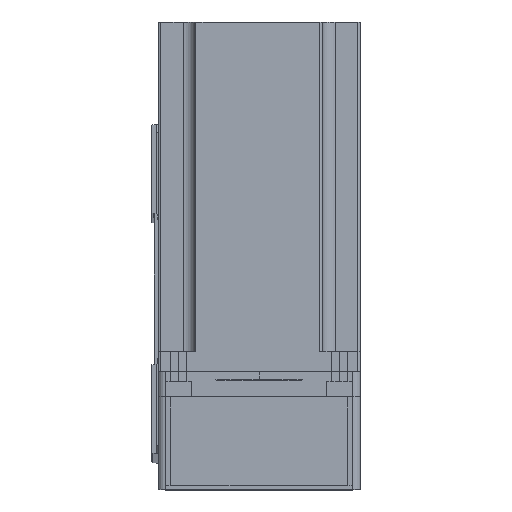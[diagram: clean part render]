
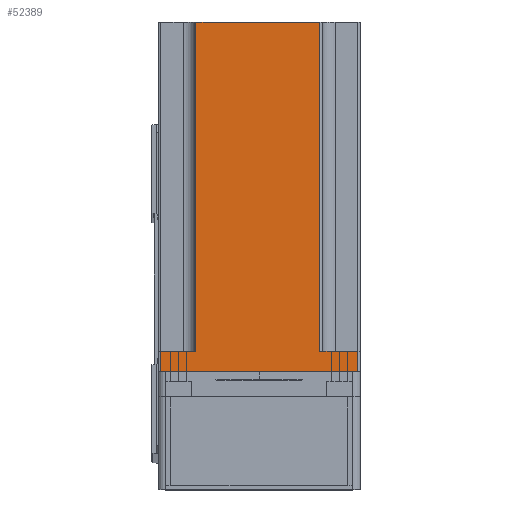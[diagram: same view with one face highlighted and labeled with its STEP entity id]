
A CAD part, top view. The second image highlights one B-rep face of the part: STEP entity #52389.
In plain terms, the highlighted planar face has unit normal (0, 0, 1) as drawn and (-1, 0, 0) by its records, which use the part's own axes.
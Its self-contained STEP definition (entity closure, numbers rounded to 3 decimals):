
#57 = LINE ( 'NONE', #50505, #11480 ) ;
#653 = DIRECTION ( 'NONE',  ( 0., -1., 0. ) ) ;
#1085 = ORIENTED_EDGE ( 'NONE', *, *, #23334, .T. ) ;
#1153 = CARTESIAN_POINT ( 'NONE',  ( -40., -40., 138.3 ) ) ;
#1919 = DIRECTION ( 'NONE',  ( 0., 0., 1. ) ) ;
#1994 = CARTESIAN_POINT ( 'NONE',  ( -40., 25., 8. ) ) ;
#2201 = VERTEX_POINT ( 'NONE', #14326 ) ;
#3221 = LINE ( 'NONE', #1153, #40673 ) ;
#4199 = LINE ( 'NONE', #54785, #54696 ) ;
#4256 = CARTESIAN_POINT ( 'NONE',  ( -40., -40., 138.3 ) ) ;
#8406 = CARTESIAN_POINT ( 'NONE',  ( -40., 39., 8. ) ) ;
#9092 = DIRECTION ( 'NONE',  ( 0., 0., -1. ) ) ;
#10614 = FACE_OUTER_BOUND ( 'NONE', #21081, .T. ) ;
#10742 = EDGE_CURVE ( 'NONE', #12630, #32214, #3221, .T. ) ;
#11480 = VECTOR ( 'NONE', #14108, 1000. ) ;
#12630 = VERTEX_POINT ( 'NONE', #31278 ) ;
#14108 = DIRECTION ( 'NONE',  ( 0., 0., -1. ) ) ;
#14326 = CARTESIAN_POINT ( 'NONE',  ( -40., 39., 0. ) ) ;
#15559 = VECTOR ( 'NONE', #17259, 1000. ) ;
#16110 = LINE ( 'NONE', #1994, #26029 ) ;
#17100 = CARTESIAN_POINT ( 'NONE',  ( -40., -39., 138.3 ) ) ;
#17259 = DIRECTION ( 'NONE',  ( 0., 0., 1. ) ) ;
#17350 = VECTOR ( 'NONE', #52584, 1000. ) ;
#18837 = VERTEX_POINT ( 'NONE', #39000 ) ;
#19520 = LINE ( 'NONE', #20780, #42591 ) ;
#20780 = CARTESIAN_POINT ( 'NONE',  ( -40., -40., 0. ) ) ;
#21068 = DIRECTION ( 'NONE',  ( 0., -1., 0. ) ) ;
#21081 = EDGE_LOOP ( 'NONE', ( #26376, #41757, #37972, #38243, #1085, #62653, #37791, #31861 ) ) ;
#23334 = EDGE_CURVE ( 'NONE', #18837, #28107, #56515, .T. ) ;
#24984 = LINE ( 'NONE', #43625, #49553 ) ;
#26029 = VECTOR ( 'NONE', #1919, 1000. ) ;
#26376 = ORIENTED_EDGE ( 'NONE', *, *, #38577, .F. ) ;
#28107 = VERTEX_POINT ( 'NONE', #8406 ) ;
#31278 = CARTESIAN_POINT ( 'NONE',  ( -40., 25., 138.3 ) ) ;
#31861 = ORIENTED_EDGE ( 'NONE', *, *, #44167, .T. ) ;
#32214 = VERTEX_POINT ( 'NONE', #49642 ) ;
#37791 = ORIENTED_EDGE ( 'NONE', *, *, #37813, .T. ) ;
#37813 = EDGE_CURVE ( 'NONE', #2201, #52732, #19520, .T. ) ;
#37972 = ORIENTED_EDGE ( 'NONE', *, *, #10742, .F. ) ;
#38243 = ORIENTED_EDGE ( 'NONE', *, *, #50688, .F. ) ;
#38403 = DIRECTION ( 'NONE',  ( 1., 0., 0. ) ) ;
#38577 = EDGE_CURVE ( 'NONE', #58494, #60012, #4199, .T. ) ;
#39000 = CARTESIAN_POINT ( 'NONE',  ( -40., 25., 8. ) ) ;
#40673 = VECTOR ( 'NONE', #653, 1000. ) ;
#41757 = ORIENTED_EDGE ( 'NONE', *, *, #57733, .T. ) ;
#42591 = VECTOR ( 'NONE', #21068, 1000. ) ;
#43625 = CARTESIAN_POINT ( 'NONE',  ( -40., -24., 138.3 ) ) ;
#44167 = EDGE_CURVE ( 'NONE', #52732, #60012, #54678, .T. ) ;
#44265 = EDGE_CURVE ( 'NONE', #28107, #2201, #57, .T. ) ;
#48516 = DIRECTION ( 'NONE',  ( 0., 0., 1. ) ) ;
#49401 = CARTESIAN_POINT ( 'NONE',  ( -40., 40., 8. ) ) ;
#49553 = VECTOR ( 'NONE', #48516, 1000. ) ;
#49642 = CARTESIAN_POINT ( 'NONE',  ( -40., -24., 138.3 ) ) ;
#50505 = CARTESIAN_POINT ( 'NONE',  ( -40., 39., 138.3 ) ) ;
#50688 = EDGE_CURVE ( 'NONE', #18837, #12630, #16110, .T. ) ;
#51211 = CARTESIAN_POINT ( 'NONE',  ( -40., -39., 0. ) ) ;
#52389 = ADVANCED_FACE ( 'NONE', ( #10614 ), #52771, .F. ) ;
#52584 = DIRECTION ( 'NONE',  ( 0., 1., 0. ) ) ;
#52732 = VERTEX_POINT ( 'NONE', #51211 ) ;
#52771 = PLANE ( 'NONE',  #55050 ) ;
#52787 = DIRECTION ( 'NONE',  ( 0., -1., 0. ) ) ;
#54678 = LINE ( 'NONE', #17100, #15559 ) ;
#54696 = VECTOR ( 'NONE', #52787, 1000. ) ;
#54785 = CARTESIAN_POINT ( 'NONE',  ( -40., -40., 8. ) ) ;
#54989 = CARTESIAN_POINT ( 'NONE',  ( -40., -24., 8. ) ) ;
#55050 = AXIS2_PLACEMENT_3D ( 'NONE', #4256, #38403, #9092 ) ;
#55844 = CARTESIAN_POINT ( 'NONE',  ( -40., -39., 8. ) ) ;
#56515 = LINE ( 'NONE', #49401, #17350 ) ;
#57733 = EDGE_CURVE ( 'NONE', #58494, #32214, #24984, .T. ) ;
#58494 = VERTEX_POINT ( 'NONE', #54989 ) ;
#60012 = VERTEX_POINT ( 'NONE', #55844 ) ;
#62653 = ORIENTED_EDGE ( 'NONE', *, *, #44265, .T. ) ;
